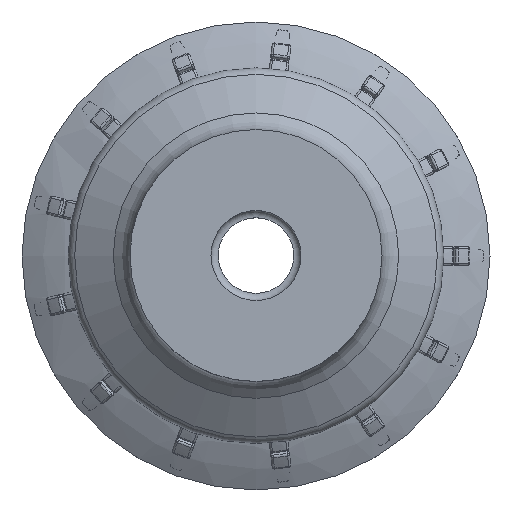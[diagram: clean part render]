
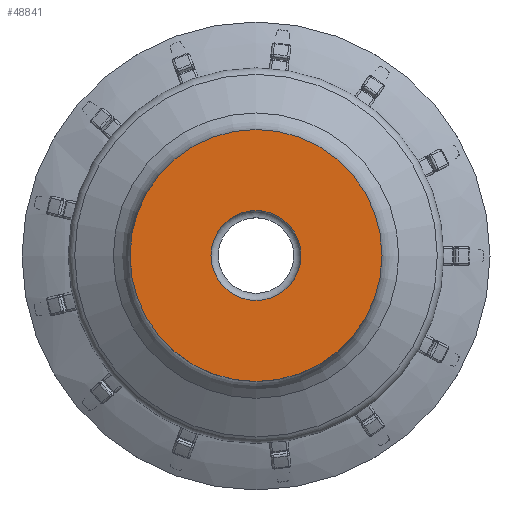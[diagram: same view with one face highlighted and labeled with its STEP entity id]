
A CAD part, top view. The second image highlights one B-rep face of the part: STEP entity #48841.
In plain terms, the highlighted planar face has unit normal (0, 0, 1).
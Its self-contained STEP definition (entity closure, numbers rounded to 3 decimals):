
#2840 = VERTEX_POINT ( 'NONE', #20762 ) ;
#4518 = DIRECTION ( 'NONE',  ( 0., 0., 1. ) ) ;
#5881 = AXIS2_PLACEMENT_3D ( 'NONE', #9896, #4518, #16329 ) ;
#7334 = DIRECTION ( 'NONE',  ( 0., 0., 1. ) ) ;
#8007 = EDGE_CURVE ( 'NONE', #2840, #2840, #55830, .T. ) ;
#9896 = CARTESIAN_POINT ( 'NONE',  ( 0., 0., 0. ) ) ;
#9937 = FACE_OUTER_BOUND ( 'NONE', #26646, .T. ) ;
#11098 = ORIENTED_EDGE ( 'NONE', *, *, #8007, .T. ) ;
#16329 = DIRECTION ( 'NONE',  ( 1., 0., 0. ) ) ;
#19646 = FACE_BOUND ( 'NONE', #24139, .T. ) ;
#20762 = CARTESIAN_POINT ( 'NONE',  ( 17.5, 0., 0. ) ) ;
#24139 = EDGE_LOOP ( 'NONE', ( #41223 ) ) ;
#26492 = VERTEX_POINT ( 'NONE', #65229 ) ;
#26646 = EDGE_LOOP ( 'NONE', ( #11098 ) ) ;
#29731 = AXIS2_PLACEMENT_3D ( 'NONE', #47642, #31855, #69528 ) ;
#30681 = CARTESIAN_POINT ( 'NONE',  ( 0., 0., 0. ) ) ;
#31855 = DIRECTION ( 'NONE',  ( 0., 0., -1. ) ) ;
#38632 = AXIS2_PLACEMENT_3D ( 'NONE', #30681, #7334, #63324 ) ;
#41223 = ORIENTED_EDGE ( 'NONE', *, *, #62057, .F. ) ;
#47642 = CARTESIAN_POINT ( 'NONE',  ( -17.5, 0., 0. ) ) ;
#48841 = ADVANCED_FACE ( 'NONE', ( #9937, #19646 ), #63452, .F. ) ;
#55830 = CIRCLE ( 'NONE', #38632, 17.5 ) ;
#56320 = CIRCLE ( 'NONE', #5881, 6.25 ) ;
#62057 = EDGE_CURVE ( 'NONE', #26492, #26492, #56320, .T. ) ;
#63324 = DIRECTION ( 'NONE',  ( 1., 0., 0. ) ) ;
#63452 = PLANE ( 'NONE',  #29731 ) ;
#65229 = CARTESIAN_POINT ( 'NONE',  ( 6.25, 0., 0. ) ) ;
#69528 = DIRECTION ( 'NONE',  ( 0., -1., 0. ) ) ;
